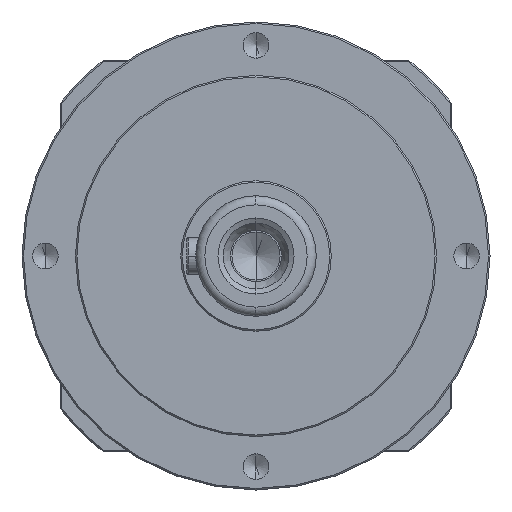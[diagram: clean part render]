
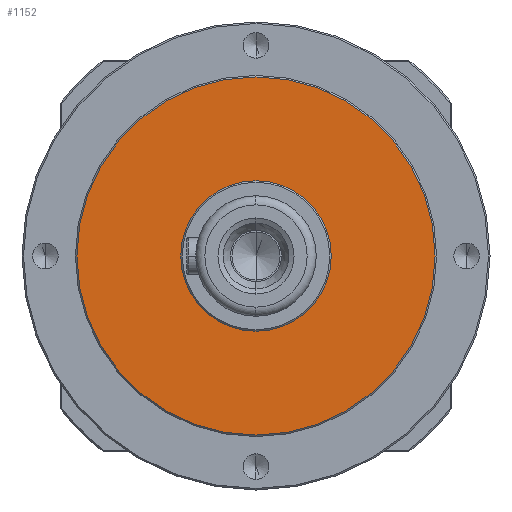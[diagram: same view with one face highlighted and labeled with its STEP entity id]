
A CAD part, left-side view. The second image highlights one B-rep face of the part: STEP entity #1152.
In plain terms, the highlighted planar face has unit normal (-1, 0, 0).
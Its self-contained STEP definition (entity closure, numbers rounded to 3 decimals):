
#21 = CARTESIAN_POINT ( 'NONE',  ( -142.087, 19.588, 214.5 ) ) ;
#94 = EDGE_CURVE ( 'NONE', #939, #156, #3090, .T. ) ;
#156 = VERTEX_POINT ( 'NONE', #228 ) ;
#211 = CARTESIAN_POINT ( 'NONE',  ( -142.087, 44.588, 274. ) ) ;
#228 = CARTESIAN_POINT ( 'NONE',  ( -142.087, 19.588, 333.5 ) ) ;
#275 = EDGE_LOOP ( 'NONE', ( #4580, #2565 ) ) ;
#399 = CARTESIAN_POINT ( 'NONE',  ( -142.087, 19.588, 274. ) ) ;
#895 = DIRECTION ( 'NONE',  ( -1., 0., 0. ) ) ;
#930 = DIRECTION ( 'NONE',  ( 1., 0., 0. ) ) ;
#939 = VERTEX_POINT ( 'NONE', #21 ) ;
#1099 = AXIS2_PLACEMENT_3D ( 'NONE', #4083, #895, #2343 ) ;
#1152 = ADVANCED_FACE ( 'NONE', ( #2759, #3538 ), #2348, .F. ) ;
#1209 = VERTEX_POINT ( 'NONE', #3800 ) ;
#1296 = CARTESIAN_POINT ( 'NONE',  ( -142.087, 19.588, 274. ) ) ;
#1435 = EDGE_CURVE ( 'NONE', #156, #939, #4510, .T. ) ;
#1503 = CARTESIAN_POINT ( 'NONE',  ( -142.087, 19.588, 274. ) ) ;
#1552 = DIRECTION ( 'NONE',  ( 0., 0., -1. ) ) ;
#1674 = CIRCLE ( 'NONE', #1099, 25. ) ;
#1695 = EDGE_LOOP ( 'NONE', ( #4233, #2342 ) ) ;
#1872 = EDGE_CURVE ( 'NONE', #1209, #3721, #1674, .T. ) ;
#1880 = DIRECTION ( 'NONE',  ( -1., 0., 0. ) ) ;
#1962 = CIRCLE ( 'NONE', #3421, 25. ) ;
#2061 = EDGE_CURVE ( 'NONE', #3721, #1209, #1962, .T. ) ;
#2342 = ORIENTED_EDGE ( 'NONE', *, *, #2061, .F. ) ;
#2343 = DIRECTION ( 'NONE',  ( 0., 0., 1. ) ) ;
#2348 = PLANE ( 'NONE',  #3908 ) ;
#2400 = AXIS2_PLACEMENT_3D ( 'NONE', #1296, #3445, #1552 ) ;
#2565 = ORIENTED_EDGE ( 'NONE', *, *, #1435, .T. ) ;
#2759 = FACE_OUTER_BOUND ( 'NONE', #275, .T. ) ;
#3090 = CIRCLE ( 'NONE', #2400, 59.5 ) ;
#3421 = AXIS2_PLACEMENT_3D ( 'NONE', #1503, #1880, #4342 ) ;
#3441 = CARTESIAN_POINT ( 'NONE',  ( -142.087, 19.588, 249. ) ) ;
#3445 = DIRECTION ( 'NONE',  ( -1., 0., 0. ) ) ;
#3538 = FACE_BOUND ( 'NONE', #1695, .T. ) ;
#3564 = DIRECTION ( 'NONE',  ( -1., 0., 0. ) ) ;
#3594 = DIRECTION ( 'NONE',  ( 0., 0., -1. ) ) ;
#3721 = VERTEX_POINT ( 'NONE', #3441 ) ;
#3800 = CARTESIAN_POINT ( 'NONE',  ( -142.087, 19.588, 299. ) ) ;
#3908 = AXIS2_PLACEMENT_3D ( 'NONE', #211, #930, #4460 ) ;
#4083 = CARTESIAN_POINT ( 'NONE',  ( -142.087, 19.588, 274. ) ) ;
#4233 = ORIENTED_EDGE ( 'NONE', *, *, #1872, .F. ) ;
#4342 = DIRECTION ( 'NONE',  ( 0., 0., 1. ) ) ;
#4375 = AXIS2_PLACEMENT_3D ( 'NONE', #399, #3564, #3594 ) ;
#4460 = DIRECTION ( 'NONE',  ( 0., 0., -1. ) ) ;
#4510 = CIRCLE ( 'NONE', #4375, 59.5 ) ;
#4580 = ORIENTED_EDGE ( 'NONE', *, *, #94, .T. ) ;
